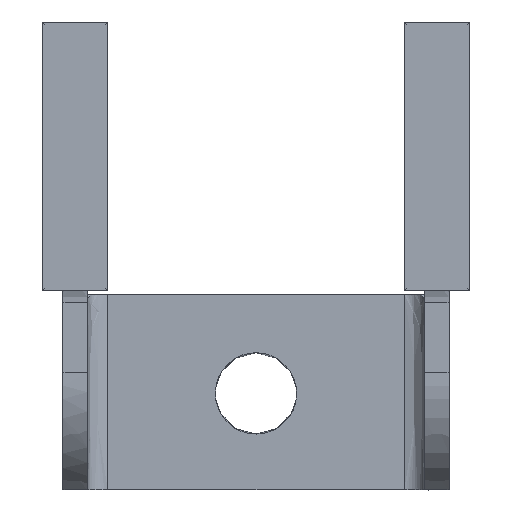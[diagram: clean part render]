
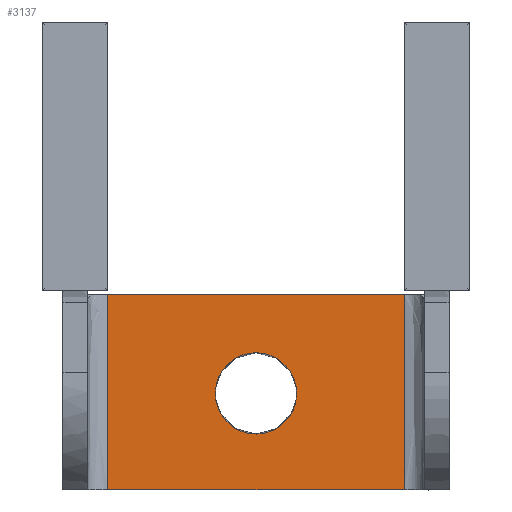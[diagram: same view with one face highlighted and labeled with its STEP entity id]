
A CAD part, top view. The second image highlights one B-rep face of the part: STEP entity #3137.
In plain terms, the highlighted planar face has unit normal (0, 0, 1).
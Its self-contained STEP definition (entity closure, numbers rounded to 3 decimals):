
#1064 = AXIS2_PLACEMENT_3D ( 'NONE', #3073, #3058, #2990 ) ;
#1077 = EDGE_CURVE ( 'NONE', #2313, #2322, #3666, .T. ) ;
#1254 = CARTESIAN_POINT ( 'NONE',  ( 10., -59., -95.239 ) ) ;
#1255 = CARTESIAN_POINT ( 'NONE',  ( 10., -57.245, -95.239 ) ) ;
#1256 = CARTESIAN_POINT ( 'NONE',  ( 9.538, -55.52, -95.239 ) ) ;
#1257 = CARTESIAN_POINT ( 'NONE',  ( 8.66, -54., -95.239 ) ) ;
#1258 = CARTESIAN_POINT ( 'NONE',  ( 7.783, -52.48, -95.239 ) ) ;
#1259 = CARTESIAN_POINT ( 'NONE',  ( 6.52, -51.217, -95.239 ) ) ;
#1260 = CARTESIAN_POINT ( 'NONE',  ( 5., -50.34, -95.239 ) ) ;
#1261 = CARTESIAN_POINT ( 'NONE',  ( 3.48, -49.462, -95.239 ) ) ;
#1262 = CARTESIAN_POINT ( 'NONE',  ( 1.755, -49., -95.239 ) ) ;
#1263 = CARTESIAN_POINT ( 'NONE',  ( 0., -49., -95.239 ) ) ;
#1264 = CARTESIAN_POINT ( 'NONE',  ( -1.755, -49., -95.239 ) ) ;
#1265 = CARTESIAN_POINT ( 'NONE',  ( -3.48, -49.462, -95.239 ) ) ;
#1266 = CARTESIAN_POINT ( 'NONE',  ( -5., -50.34, -95.239 ) ) ;
#1267 = CARTESIAN_POINT ( 'NONE',  ( -6.52, -51.217, -95.239 ) ) ;
#1268 = CARTESIAN_POINT ( 'NONE',  ( -7.783, -52.48, -95.239 ) ) ;
#1269 = CARTESIAN_POINT ( 'NONE',  ( -8.66, -54., -95.239 ) ) ;
#1270 = CARTESIAN_POINT ( 'NONE',  ( -9.538, -55.52, -95.239 ) ) ;
#1271 = CARTESIAN_POINT ( 'NONE',  ( -10., -57.245, -95.239 ) ) ;
#1295 = CARTESIAN_POINT ( 'NONE',  ( -10., -59., -95.239 ) ) ;
#1402 = DIRECTION ( 'NONE',  ( 0., -1., 0. ) ) ;
#1403 = CARTESIAN_POINT ( 'NONE',  ( -36.5, -34.764, -95.239 ) ) ;
#1536 = DIRECTION ( 'NONE',  ( 0., 1., 0. ) ) ;
#1537 = CARTESIAN_POINT ( 'NONE',  ( 36.5, -34.764, -95.239 ) ) ;
#1828 = DIRECTION ( 'NONE',  ( 1., 0., 0. ) ) ;
#1832 = CARTESIAN_POINT ( 'NONE',  ( -36.5, -82.764, -95.239 ) ) ;
#1904 = CARTESIAN_POINT ( 'NONE',  ( -10., -59., -95.239 ) ) ;
#1905 = CARTESIAN_POINT ( 'NONE',  ( -10., -60.755, -95.239 ) ) ;
#1906 = CARTESIAN_POINT ( 'NONE',  ( -9.538, -62.48, -95.239 ) ) ;
#1907 = CARTESIAN_POINT ( 'NONE',  ( -8.66, -64., -95.239 ) ) ;
#1908 = CARTESIAN_POINT ( 'NONE',  ( -7.783, -65.52, -95.239 ) ) ;
#1909 = CARTESIAN_POINT ( 'NONE',  ( -6.52, -66.783, -95.239 ) ) ;
#1910 = CARTESIAN_POINT ( 'NONE',  ( -5., -67.66, -95.239 ) ) ;
#1911 = CARTESIAN_POINT ( 'NONE',  ( -3.48, -68.538, -95.239 ) ) ;
#1912 = CARTESIAN_POINT ( 'NONE',  ( -1.755, -69., -95.239 ) ) ;
#1913 = CARTESIAN_POINT ( 'NONE',  ( 0., -69., -95.239 ) ) ;
#1914 = CARTESIAN_POINT ( 'NONE',  ( 1.755, -69., -95.239 ) ) ;
#1915 = CARTESIAN_POINT ( 'NONE',  ( 3.48, -68.538, -95.239 ) ) ;
#1916 = CARTESIAN_POINT ( 'NONE',  ( 5., -67.66, -95.239 ) ) ;
#1917 = CARTESIAN_POINT ( 'NONE',  ( 6.52, -66.783, -95.239 ) ) ;
#1918 = CARTESIAN_POINT ( 'NONE',  ( 7.783, -65.52, -95.239 ) ) ;
#1919 = CARTESIAN_POINT ( 'NONE',  ( 8.66, -64., -95.239 ) ) ;
#1920 = CARTESIAN_POINT ( 'NONE',  ( 9.538, -62.48, -95.239 ) ) ;
#1921 = CARTESIAN_POINT ( 'NONE',  ( 10., -60.755, -95.239 ) ) ;
#1937 = CARTESIAN_POINT ( 'NONE',  ( 10., -59., -95.239 ) ) ;
#2025 = CARTESIAN_POINT ( 'NONE',  ( 36.5, -82.764, -95.239 ) ) ;
#2048 = CARTESIAN_POINT ( 'NONE',  ( -36.5, -34.764, -95.239 ) ) ;
#2057 = CARTESIAN_POINT ( 'NONE',  ( 36.5, -34.764, -95.239 ) ) ;
#2058 = CARTESIAN_POINT ( 'NONE',  ( -36.5, -82.764, -95.239 ) ) ;
#2081 = CARTESIAN_POINT ( 'NONE',  ( 10., -59., -95.239 ) ) ;
#2118 = CARTESIAN_POINT ( 'NONE',  ( -10., -59., -95.239 ) ) ;
#2189 = DIRECTION ( 'NONE',  ( -1., 0., 0. ) ) ;
#2209 = CARTESIAN_POINT ( 'NONE',  ( -36.5, -34.764, -95.239 ) ) ;
#2254 = VERTEX_POINT ( 'NONE', #2118 ) ;
#2289 = VERTEX_POINT ( 'NONE', #2081 ) ;
#2312 = VERTEX_POINT ( 'NONE', #2058 ) ;
#2313 = VERTEX_POINT ( 'NONE', #2057 ) ;
#2322 = VERTEX_POINT ( 'NONE', #2048 ) ;
#2345 = VERTEX_POINT ( 'NONE', #2025 ) ;
#2575 = EDGE_CURVE ( 'NONE', #2289, #2254, #3245, .T. ) ;
#2588 = EDGE_CURVE ( 'NONE', #2312, #2345, #3700, .T. ) ;
#2635 = EDGE_CURVE ( 'NONE', #2345, #2313, #2846, .T. ) ;
#2660 = EDGE_CURVE ( 'NONE', #2322, #2312, #2812, .T. ) ;
#2692 = EDGE_CURVE ( 'NONE', #2254, #2289, #3269, .T. ) ;
#2739 = FACE_OUTER_BOUND ( 'NONE', #3358, .T. ) ;
#2740 = FACE_BOUND ( 'NONE', #3426, .T. ) ;
#2811 = VECTOR ( 'NONE', #1402, 1000. ) ;
#2812 = LINE ( 'NONE', #1403, #2811 ) ;
#2845 = VECTOR ( 'NONE', #1536, 1000. ) ;
#2846 = LINE ( 'NONE', #1537, #2845 ) ;
#2990 = DIRECTION ( 'NONE',  ( 0., -1., 0. ) ) ;
#3058 = DIRECTION ( 'NONE',  ( 0., 0., 1. ) ) ;
#3064 = PLANE ( 'NONE',  #1064 ) ;
#3073 = CARTESIAN_POINT ( 'NONE',  ( -36.5, -34.764, -95.239 ) ) ;
#3137 = ADVANCED_FACE ( 'NONE', ( #2740, #2739 ), #3064, .T. ) ;
#3245 = B_SPLINE_CURVE_WITH_KNOTS ( 'NONE', 3,
 ( #1937, #1921, #1920, #1919, #1918, #1917, #1916, #1915, #1914, #1913, #1912, #1911, #1910, #1909, #1908, #1907, #1906, #1905, #1904 ),
 .UNSPECIFIED., .F., .F.,
 ( 4, 3, 3, 3, 3, 3, 4 ),
 ( -0.029, -0.023, -0.018, -0.013, -0.008, -0.003, 0.003 ),
 .UNSPECIFIED. ) ;
#3269 = B_SPLINE_CURVE_WITH_KNOTS ( 'NONE', 3,
 ( #1295, #1271, #1270, #1269, #1268, #1267, #1266, #1265, #1264, #1263, #1262, #1261, #1260, #1259, #1258, #1257, #1256, #1255, #1254 ),
 .UNSPECIFIED., .F., .F.,
 ( 4, 3, 3, 3, 3, 3, 4 ),
 ( -0.029, -0.023, -0.018, -0.013, -0.008, -0.003, 0.003 ),
 .UNSPECIFIED. ) ;
#3358 = EDGE_LOOP ( 'NONE', ( #3634, #3633, #3632, #3631 ) ) ;
#3426 = EDGE_LOOP ( 'NONE', ( #3636, #3635 ) ) ;
#3631 = ORIENTED_EDGE ( 'NONE', *, *, #1077, .T. ) ;
#3632 = ORIENTED_EDGE ( 'NONE', *, *, #2635, .T. ) ;
#3633 = ORIENTED_EDGE ( 'NONE', *, *, #2588, .T. ) ;
#3634 = ORIENTED_EDGE ( 'NONE', *, *, #2660, .T. ) ;
#3635 = ORIENTED_EDGE ( 'NONE', *, *, #2692, .T. ) ;
#3636 = ORIENTED_EDGE ( 'NONE', *, *, #2575, .T. ) ;
#3666 = LINE ( 'NONE', #2209, #3670 ) ;
#3670 = VECTOR ( 'NONE', #2189, 1000. ) ;
#3697 = VECTOR ( 'NONE', #1828, 1000. ) ;
#3700 = LINE ( 'NONE', #1832, #3697 ) ;
